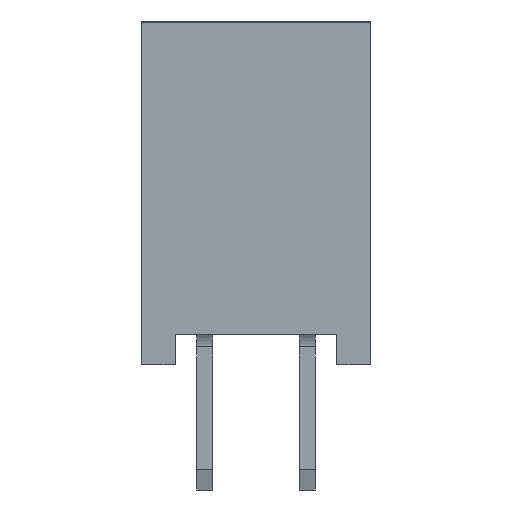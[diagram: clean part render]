
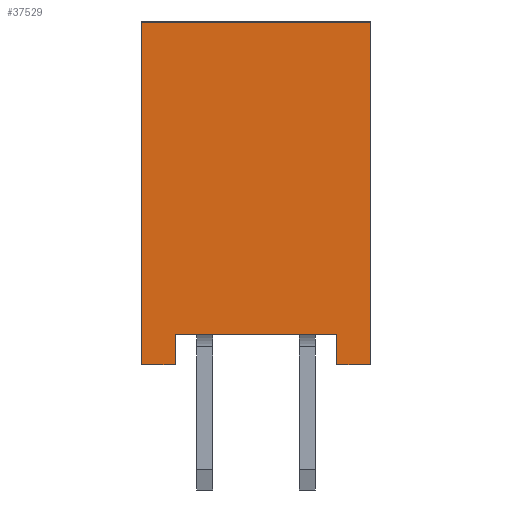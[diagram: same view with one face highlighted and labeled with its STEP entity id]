
A CAD part, left-side view. The second image highlights one B-rep face of the part: STEP entity #37529.
In plain terms, the highlighted planar face has unit normal (-1, 0, 0).
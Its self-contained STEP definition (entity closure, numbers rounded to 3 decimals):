
#4683 = VERTEX_POINT('',#4684);
#4684 = CARTESIAN_POINT('',(-31.9,2.,0.75));
#4692 = VERTEX_POINT('',#4693);
#4693 = CARTESIAN_POINT('',(-31.9,-2.,0.75));
#4699 = EDGE_CURVE('',#4683,#4692,#4700,.T.);
#4700 = LINE('',#4701,#4702);
#4701 = CARTESIAN_POINT('',(-31.9,2.84,0.75)
  );
#4702 = VECTOR('',#4703,1.);
#4703 = DIRECTION('',(0.,-1.,0.));
#6302 = VERTEX_POINT('',#6303);
#6303 = CARTESIAN_POINT('',(-31.9,-2.84,8.5));
#6311 = VERTEX_POINT('',#6312);
#6312 = CARTESIAN_POINT('',(-31.9,2.84,8.5));
#6318 = EDGE_CURVE('',#6311,#6302,#6319,.T.);
#6319 = LINE('',#6320,#6321);
#6320 = CARTESIAN_POINT('',(-31.9,0.,8.5));
#6321 = VECTOR('',#6322,1.);
#6322 = DIRECTION('',(0.,-1.,0.));
#6335 = VERTEX_POINT('',#6336);
#6336 = CARTESIAN_POINT('',(-31.9,-2.,0.));
#6342 = EDGE_CURVE('',#6335,#4692,#6343,.T.);
#6343 = LINE('',#6344,#6345);
#6344 = CARTESIAN_POINT('',(-31.9,-2.,0.75
    ));
#6345 = VECTOR('',#6346,1.);
#6346 = DIRECTION('',(0.,0.,1.));
#6357 = VERTEX_POINT('',#6358);
#6358 = CARTESIAN_POINT('',(-31.9,2.,0.));
#6366 = EDGE_CURVE('',#4683,#6357,#6367,.T.);
#6367 = LINE('',#6368,#6369);
#6368 = CARTESIAN_POINT('',(-31.9,2.,0.));
#6369 = VECTOR('',#6370,1.);
#6370 = DIRECTION('',(0.,0.,-1.));
#6381 = VERTEX_POINT('',#6382);
#6382 = CARTESIAN_POINT('',(-31.9,-2.84,0.));
#6390 = EDGE_CURVE('',#6381,#6302,#6391,.T.);
#6391 = LINE('',#6392,#6393);
#6392 = CARTESIAN_POINT('',(-31.9,-2.84,0.));
#6393 = VECTOR('',#6394,1.);
#6394 = DIRECTION('',(0.,0.,1.));
#6406 = VERTEX_POINT('',#6407);
#6407 = CARTESIAN_POINT('',(-31.9,2.84,0.));
#6413 = EDGE_CURVE('',#6406,#6311,#6414,.T.);
#6414 = LINE('',#6415,#6416);
#6415 = CARTESIAN_POINT('',(-31.9,2.84,0.));
#6416 = VECTOR('',#6417,1.);
#6417 = DIRECTION('',(0.,0.,1.));
#6430 = EDGE_CURVE('',#6335,#6381,#6431,.T.);
#6431 = LINE('',#6432,#6433);
#6432 = CARTESIAN_POINT('',(-31.9,2.84,0.));
#6433 = VECTOR('',#6434,1.);
#6434 = DIRECTION('',(0.,-1.,0.));
#6447 = EDGE_CURVE('',#6406,#6357,#6448,.T.);
#6448 = LINE('',#6449,#6450);
#6449 = CARTESIAN_POINT('',(-31.9,2.84,0.));
#6450 = VECTOR('',#6451,1.);
#6451 = DIRECTION('',(0.,-1.,0.));
#37529 = ADVANCED_FACE('',(#37530),#37540,.T.);
#37530 = FACE_BOUND('',#37531,.T.);
#37531 = EDGE_LOOP('',(#37532,#37533,#37534,#37535,#37536,#37537,#37538,
    #37539));
#37532 = ORIENTED_EDGE('',*,*,#6366,.F.);
#37533 = ORIENTED_EDGE('',*,*,#4699,.T.);
#37534 = ORIENTED_EDGE('',*,*,#6342,.F.);
#37535 = ORIENTED_EDGE('',*,*,#6430,.T.);
#37536 = ORIENTED_EDGE('',*,*,#6390,.T.);
#37537 = ORIENTED_EDGE('',*,*,#6318,.F.);
#37538 = ORIENTED_EDGE('',*,*,#6413,.F.);
#37539 = ORIENTED_EDGE('',*,*,#6447,.T.);
#37540 = PLANE('',#37541);
#37541 = AXIS2_PLACEMENT_3D('',#37542,#37543,#37544);
#37542 = CARTESIAN_POINT('',(-31.9,2.84,0.));
#37543 = DIRECTION('',(-1.,0.,0.));
#37544 = DIRECTION('',(0.,0.,1.));
